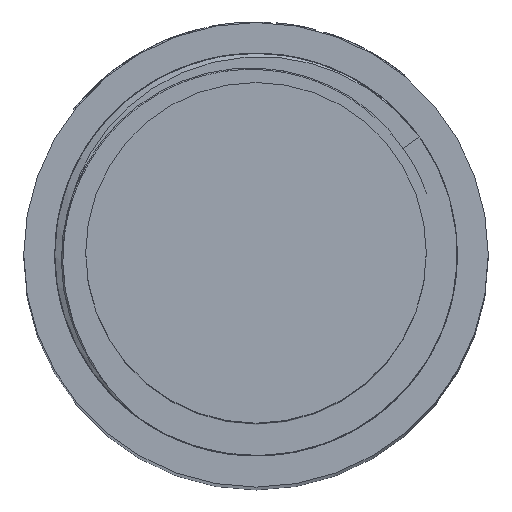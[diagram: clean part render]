
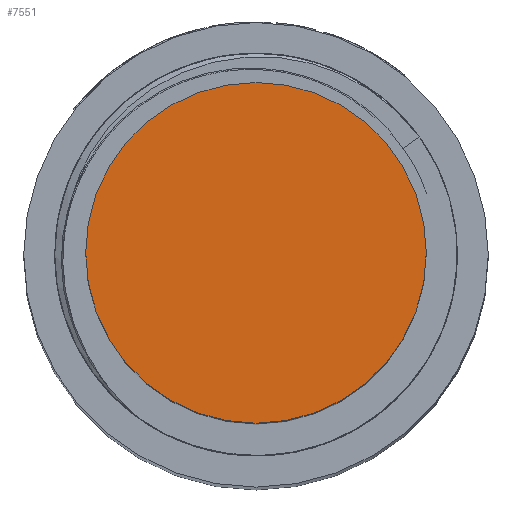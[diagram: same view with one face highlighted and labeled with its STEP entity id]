
A CAD part, top view. The second image highlights one B-rep face of the part: STEP entity #7551.
In plain terms, the highlighted planar face has unit normal (0, 0, 1).
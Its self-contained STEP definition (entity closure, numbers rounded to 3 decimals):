
#1914=CARTESIAN_POINT('',(0.,0.,130.75));
#1915=DIRECTION('',(0.,0.,1.));
#1916=DIRECTION('',(1.,0.,0.));
#1917=AXIS2_PLACEMENT_3D('',#1914,#1915,#1916);
#1919=CARTESIAN_POINT('',(0.,0.,130.75));
#1920=DIRECTION('',(0.,0.,1.));
#1921=DIRECTION('',(-1.,0.,0.));
#1922=AXIS2_PLACEMENT_3D('',#1919,#1920,#1921);
#5550=CARTESIAN_POINT('',(11.,0.,130.75));
#5551=CARTESIAN_POINT('',(-11.,0.,130.75));
#5552=VERTEX_POINT('',#5550);
#5553=VERTEX_POINT('',#5551);
#7542=CARTESIAN_POINT('',(0.,0.,130.75));
#7543=DIRECTION('',(0.,0.,1.));
#7544=DIRECTION('',(1.,0.,0.));
#7545=AXIS2_PLACEMENT_3D('',#7542,#7543,#7544);
#7546=PLANE('',#7545);
#7547=ORIENTED_EDGE('',*,*,#7450,.F.);
#7548=ORIENTED_EDGE('',*,*,#7536,.F.);
#7549=EDGE_LOOP('',(#7547,#7548));
#7550=FACE_OUTER_BOUND('',#7549,.F.);
#7551=ADVANCED_FACE('',(#7550),#7546,.T.);
#1918=CIRCLE('',#1917,11.);
#1923=CIRCLE('',#1922,11.);
#7450=EDGE_CURVE('',#5552,#5553,#1918,.T.);
#7536=EDGE_CURVE('',#5553,#5552,#1923,.T.);
